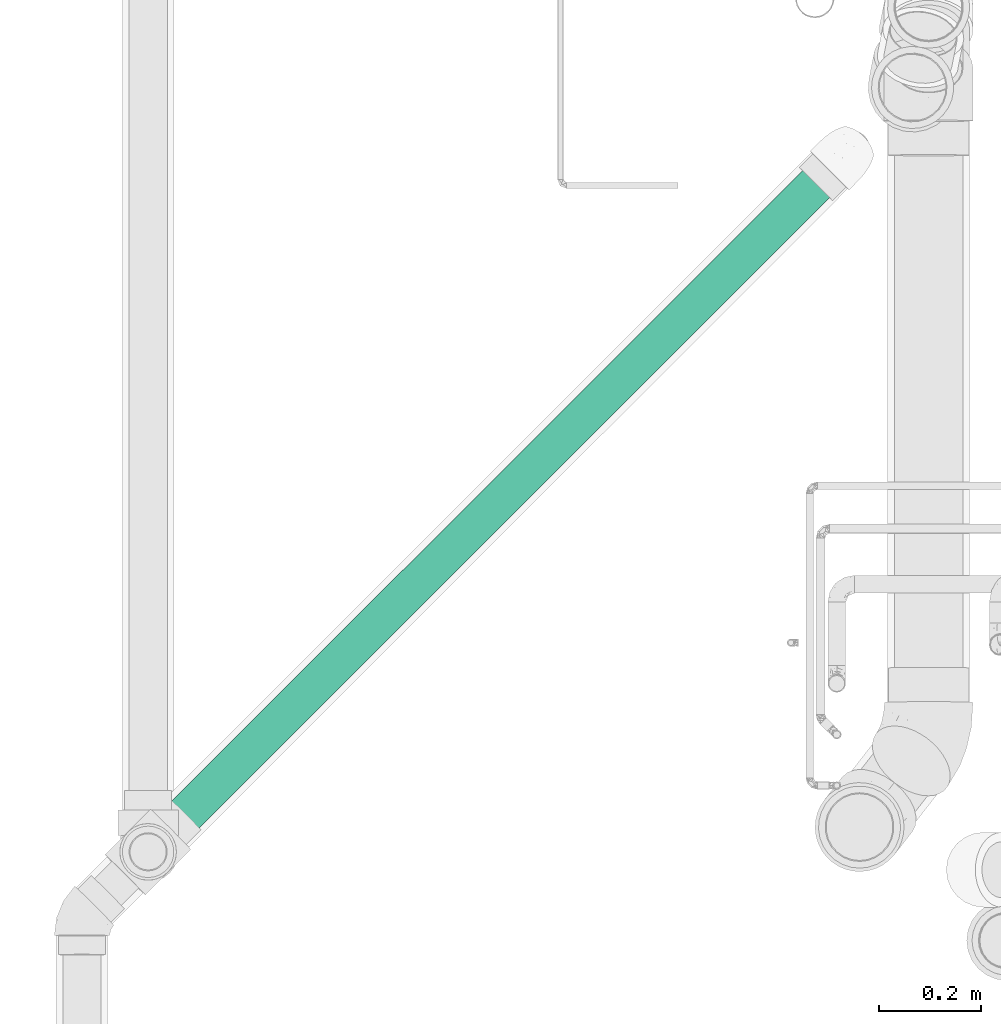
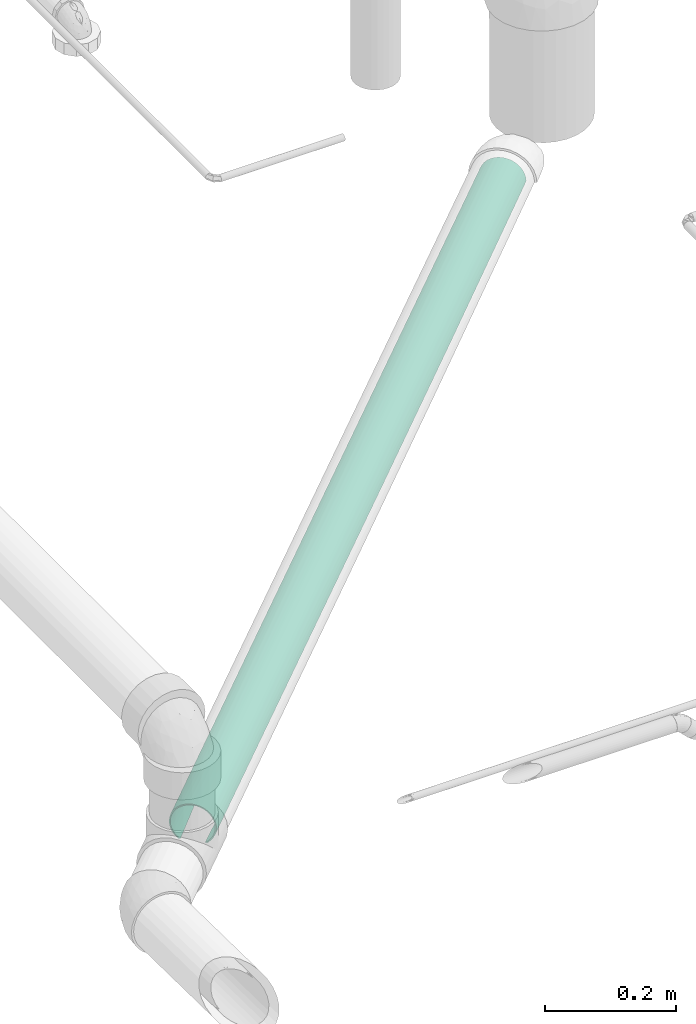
# One storey, part 107 of 156: 1 flow segment.
"""IFC2X3 building model written with IfcOpenShell, lengths in millimetres."""

from ifc_helpers import new_model, entity, si_unit, converted_unit, derived_unit, direction, frame, place, context, subcontext, project, spatial, faceted_brep, type_object, element, save


model = new_model("IFC2X3")

# Units and contexts
model_context = context("Model", 3, precision=0.01, world=frame((0.0, 4.29681676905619e-09, 0.0)), true_north=direction((4.01073788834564e-13, 1.0)))
plan_context = context("Plan", 3, precision=0.01, world=frame((0.0, 4.29681676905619e-09, 0.0)), true_north=direction((4.01073788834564e-13, 1.0)))
body_context = subcontext(model_context, "Body", "Model", "MODEL_VIEW")
ifc_project = project(units=[converted_unit("PLANEANGLEUNIT", "DEGREE", entity("IfcPositiveLengthMeasure", 0.0174532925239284), si_unit("PLANEANGLEUNIT", "RADIAN"), dimensions=[0, 0, 0, 0, 0, 0, 0]), si_unit("AREAUNIT", "SQUARE_METRE"), si_unit("LENGTHUNIT", "METRE", prefix="MILLI"), si_unit("MASSUNIT", "GRAM", prefix="KILO"), si_unit("POWERUNIT", "WATT"), si_unit("PRESSUREUNIT", "PASCAL", prefix="KILO"), si_unit("FORCEUNIT", "NEWTON", prefix="KILO"), si_unit("ELECTRICVOLTAGEUNIT", "VOLT"), si_unit("ELECTRICCURRENTUNIT", "AMPERE"), si_unit("THERMODYNAMICTEMPERATUREUNIT", "DEGREE_CELSIUS"), si_unit("TIMEUNIT", "SECOND"), si_unit("VOLUMEUNIT", "CUBIC_METRE"), derived_unit("LINEARVELOCITYUNIT", [(si_unit("LENGTHUNIT", "METRE"), 1), (si_unit("TIMEUNIT", "SECOND"), -1)]), derived_unit("VOLUMETRICFLOWRATEUNIT", [(si_unit("VOLUMEUNIT", "CUBIC_METRE"), 1), (si_unit("TIMEUNIT", "SECOND"), -1)]), derived_unit("THERMALTRANSMITTANCEUNIT", [(si_unit("POWERUNIT", "WATT"), 1), (si_unit("THERMODYNAMICTEMPERATUREUNIT", "KELVIN"), -1), (si_unit("AREAUNIT", "SQUARE_METRE"), -1)]), derived_unit("SOUNDPRESSUREUNIT", [(si_unit("PRESSUREUNIT", "PASCAL"), 1)])], contexts=[model_context, plan_context])

# Site, building, storey
site_placement = place(None, frame((0.0, -4.29681676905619e-09, 0.0), z_axis=(0.0, 0.0, 1.0), x_axis=(1.0, 0.0, 0.0)))
site = spatial("IfcSite", under=ifc_project, at=site_placement, CompositionType="ELEMENT")
building_placement = place(site_placement, frame((0.0, 4.29681676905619e-09, 0.0), z_axis=(0.0, 0.0, 1.0), x_axis=(1.0, 0.0, 0.0)))
building = spatial("IfcBuilding", under=site, at=building_placement, Name="mc-building", CompositionType="ELEMENT")
storey_placement = place(building_placement, frame((0.0, 0.0, 205200.0), z_axis=(0.0, 0.0, 1.0), x_axis=(1.0, 0.0, 0.0)))
storey = spatial("IfcBuildingStorey", under=building, at=storey_placement, Name="Nivå D + 1,2 m", CompositionType="ELEMENT", Elevation=205200.0)

# Flow segment
pipe_segment_type = type_object("IfcPipeSegmentType", Name="MA", PredefinedType="RIGIDSEGMENT")
flow_segment_placement = place(storey_placement, frame((324114.19271, 464095.45265, 3999.09020999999), z_axis=(0.0118089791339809, 0.0118069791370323, 0.999860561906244), x_axis=(-0.707057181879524, -0.706959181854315, 0.0166990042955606)))
element("IfcFlowSegment", 1, at=flow_segment_placement, inside=storey, type_object=pipe_segment_type, Name="MA", context=body_context, shape_type="Brep", body=[
    faceted_brep([(423.585118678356, 34.9606752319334, -6.16451030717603), (54.4822374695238, 35.5, 0.0), (1826.7, 35.5, 0.0), (1826.7, 34.9606752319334, -6.16451030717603), (781.472979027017, 33.3590880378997, -12.1417150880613), (1826.7, 33.3590880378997, -12.1417150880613), (1117.27157697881, 30.7439018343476, -17.75), (1826.7, 30.7439018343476, -17.75), (1420.77784205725, 27.1945777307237, -22.8189601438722), (1826.7, 27.1945777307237, -22.8189601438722), (1682.76988997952, 22.8189601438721, -27.1945777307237), (1826.7, 22.8189601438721, -27.1945777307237), (1826.7, 19.3859414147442, -29.5984033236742), (1682.76918806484, -22.8189601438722, -27.1945777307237), (1826.7, -19.3859271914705, -29.5984132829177), (1826.7, -22.8189601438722, -27.1945777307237), (1420.77700554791, -27.1945777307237, -22.8189601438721), (1826.7, -27.1945777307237, -22.8189601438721), (1117.27063129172, -30.7439018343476, -17.75), (1826.7, -30.7439018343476, -17.75), (781.471952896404, -33.3590880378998, -12.1417150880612), (1826.7, -33.3590880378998, -12.1417150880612), (423.584043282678, -34.9606752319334, -6.16451030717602), (1826.7, -34.9606752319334, -6.16451030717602), (54.4811454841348, -35.5, 4.3474961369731e-15), (1826.7, -35.5, 4.3474961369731e-15), (0.0, -35.4203933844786, 0.909907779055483), (1826.7, -34.9606752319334, 6.16451030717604), (0.0, -34.9606752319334, 6.16451030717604), (1826.7, -33.3590880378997, 12.1417150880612), (0.0, -33.3590880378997, 12.1417150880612), (1826.7, -30.7439018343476, 17.75), (0.0, -30.7439018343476, 17.75), (1826.7, -27.1945777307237, 22.8189601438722), (0.0, -27.1945777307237, 22.8189601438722), (1826.7, -22.8189601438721, 27.1945777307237), (0.0, -22.8189601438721, 27.1945777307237), (1826.7, -17.75, 30.7439018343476), (0.0, -17.75, 30.7439018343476), (1826.7, -12.1417150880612, 33.3590880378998), (0.0, -12.1417150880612, 33.3590880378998), (1826.7, -6.16451030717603, 34.9606752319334), (0.0, -6.16451030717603, 34.9606752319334), (1826.7, 2.17374806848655e-15, 35.5), (0.0, 2.17374806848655e-15, 35.5), (1826.7, 6.16451030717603, 34.9606752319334), (0.0, 6.16451030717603, 34.9606752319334), (1826.7, 12.1417150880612, 33.3590880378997), (0.0, 12.1417150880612, 33.3590880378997), (1826.7, 17.75, 30.7439018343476), (0.0, 17.75, 30.7439018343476), (1826.7, 22.8189601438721, 27.1945777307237), (0.0, 22.8189601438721, 27.1945777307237), (1826.7, 27.1945777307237, 22.8189601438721), (0.0, 27.1945777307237, 22.8189601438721), (1826.7, 30.7439018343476, 17.75), (0.0, 30.7439018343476, 17.75), (1826.7, 33.3590880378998, 12.1417150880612), (0.0, 33.3590880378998, 12.1417150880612), (1826.7, 34.9606752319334, 6.16451030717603), (0.0, 34.9606752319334, 6.16451030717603), (0.0, 35.4203917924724, 0.909925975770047), (54.4822682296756, 37.5, 0.0), (444.379677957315, 36.9302907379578, -6.51180666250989), (1826.7, 36.9302907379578, -6.51180666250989), (1826.7, 37.5, 0.0), (0.0, 37.4203917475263, 0.909926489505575), (1826.7, 36.9302907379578, 6.51180666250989), (0.0, 36.9302907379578, 6.51180666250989), (1826.7, 35.2384732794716, 12.8257553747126), (0.0, 35.2384732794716, 12.8257553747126), (1826.7, 32.4759526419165, 18.75), (0.0, 32.4759526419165, 18.75), (1826.7, 28.7266666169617, 24.1045353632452), (0.0, 28.7266666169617, 24.1045353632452), (1826.7, 24.1045353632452, 28.7266666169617), (0.0, 24.1045353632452, 28.7266666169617), (1826.7, 18.75, 32.4759526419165), (0.0, 18.75, 32.4759526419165), (1826.7, 12.8257553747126, 35.2384732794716), (0.0, 12.8257553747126, 35.2384732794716), (1826.7, 6.51180666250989, 36.9302907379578), (0.0, 6.51180666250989, 36.9302907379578), (1826.7, 2.29621274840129e-15, 37.5), (0.0, 2.29621274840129e-15, 37.5), (1826.7, -6.51180666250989, 36.9302907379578), (0.0, -6.51180666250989, 36.9302907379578), (1826.7, -12.8257553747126, 35.2384732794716), (0.0, -12.8257553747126, 35.2384732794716), (1826.7, -18.75, 32.4759526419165), (0.0, -18.75, 32.4759526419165), (1826.7, -24.1045353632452, 28.7266666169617), (0.0, -24.1045353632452, 28.7266666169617), (1826.7, -28.7266666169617, 24.1045353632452), (0.0, -28.7266666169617, 24.1045353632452), (1826.7, -32.4759526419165, 18.75), (0.0, -32.4759526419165, 18.75), (1826.7, -35.2384732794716, 12.8257553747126), (0.0, -35.2384732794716, 12.8257553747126), (1826.7, -36.9302907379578, 6.5118066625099), (0.0, -36.9302907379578, 6.5118066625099), (54.4811147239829, -37.5, 4.59242549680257e-15), (0.0, -37.4203934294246, 0.90990726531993), (1826.7, -37.5, 4.59242549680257e-15), (444.378541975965, -36.9302907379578, -6.51180666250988), (1826.7, -36.9302907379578, -6.51180666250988), (822.429150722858, -35.2384732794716, -12.8257553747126), (1826.7, -35.2384732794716, -12.8257553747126), (1177.14606452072, -32.4759526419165, -18.75), (1826.7, -32.4759526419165, -18.75), (1497.75138943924, -28.7266666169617, -24.1045353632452), (1826.7, -28.7266666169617, -24.1045353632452), (1774.50369491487, -24.1045353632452, -28.7266666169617), (1826.7, -24.1045353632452, -28.7266666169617), (1826.7, -22.859550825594, -29.5984141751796), (1774.50443637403, 24.1045353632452, -28.7266666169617), (1826.7, 22.8595675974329, -29.5984024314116), (1826.7, 24.1045353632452, -28.7266666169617), (1497.75227307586, 28.7266666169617, -24.1045353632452), (1826.7, 28.7266666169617, -24.1045353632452), (1177.14706348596, 32.4759526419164, -18.75), (1826.7, 32.4759526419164, -18.75), (822.430234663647, 35.2384732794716, -12.8257553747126), (1826.7, 35.2384732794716, -12.8257553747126), (0.0, -37.4204663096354, 0.909074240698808), (0.0, -35.4204663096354, 0.909074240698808), (0.0, 35.4204663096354, 0.909074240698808), (0.0, 37.4204663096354, 0.909074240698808), (1826.7, 22.8590261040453, -29.5987815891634), (1826.7, 19.3854011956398, -29.5987815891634), (1826.7, -19.3854011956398, -29.5987815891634)], [[[0, 1, 2, 3]], [[4, 0, 3, 5]], [[6, 4, 5, 7]], [[8, 6, 7, 9]], [[10, 8, 9, 11]], [[12, 10, 11]], [[13, 14, 15]], [[16, 13, 15, 17]], [[18, 16, 17, 19]], [[20, 18, 19, 21]], [[22, 20, 21, 23]], [[24, 22, 23, 25]], [[26, 24, 25, 27, 28]], [[28, 27, 29, 30]], [[30, 29, 31, 32]], [[32, 31, 33, 34]], [[34, 33, 35, 36]], [[36, 35, 37, 38]], [[38, 37, 39, 40]], [[40, 39, 41, 42]], [[42, 41, 43, 44]], [[44, 43, 45, 46]], [[46, 45, 47, 48]], [[48, 47, 49, 50]], [[50, 49, 51, 52]], [[52, 51, 53, 54]], [[54, 53, 55, 56]], [[56, 55, 57, 58]], [[58, 57, 59, 60]], [[1, 61, 60, 59, 2]], [[62, 63, 64, 65]], [[66, 62, 65, 67, 68]], [[68, 67, 69, 70]], [[70, 69, 71, 72]], [[72, 71, 73, 74]], [[74, 73, 75, 76]], [[76, 75, 77, 78]], [[78, 77, 79, 80]], [[80, 79, 81, 82]], [[82, 81, 83, 84]], [[84, 83, 85, 86]], [[86, 85, 87, 88]], [[88, 87, 89, 90]], [[90, 89, 91, 92]], [[92, 91, 93, 94]], [[94, 93, 95, 96]], [[96, 95, 97, 98]], [[98, 97, 99, 100]], [[101, 102, 100, 99, 103]], [[104, 101, 103, 105]], [[106, 104, 105, 107]], [[108, 106, 107, 109]], [[110, 108, 109, 111]], [[112, 110, 111, 113]], [[114, 112, 113]], [[115, 116, 117]], [[118, 115, 117, 119]], [[120, 118, 119, 121]], [[122, 120, 121, 123]], [[63, 122, 123, 64]], [[124, 125, 28, 30, 32, 34, 36, 38, 40, 42, 44, 46, 48, 50, 52, 54, 56, 58, 60, 126, 127, 68, 70, 72, 74, 76, 78, 80, 82, 84, 86, 88, 90, 92, 94, 96, 98, 100]], [[128, 129, 11, 9, 7, 5, 3, 2, 59, 57, 55, 53, 51, 49, 47, 45, 43, 41, 39, 37, 35, 33, 31, 29, 27, 25, 23, 21, 19, 17, 15, 130, 114, 113, 111, 109, 107, 105, 103, 99, 97, 95, 93, 91, 89, 87, 85, 83, 81, 79, 77, 75, 73, 71, 69, 67, 65, 64, 123, 121, 119, 117]], [[4, 6, 8, 10, 12, 116, 115, 118, 120, 122, 63, 62, 66, 61, 1, 0]], [[16, 18, 20, 22, 24, 26, 102, 101, 104, 106, 108, 110, 112, 114, 14, 13]]], orient=[[False], [False], [False], [False], [False], [False], [False], [False], [False], [False], [False], [False], [False], [False], [False], [False], [False], [False], [False], [False], [False], [False], [False], [False], [False], [False], [False], [False], [False], [False], [False], [False], [False], [False], [False], [False], [False], [False], [False], [False], [False], [False], [False], [False], [False], [False], [False], [False], [False], [False], [False], [False], [False], [False], [False], [False], [False], [False], [False], [False], [False], [False], [False], [False]]),
])

save(model, "model.ifc")
